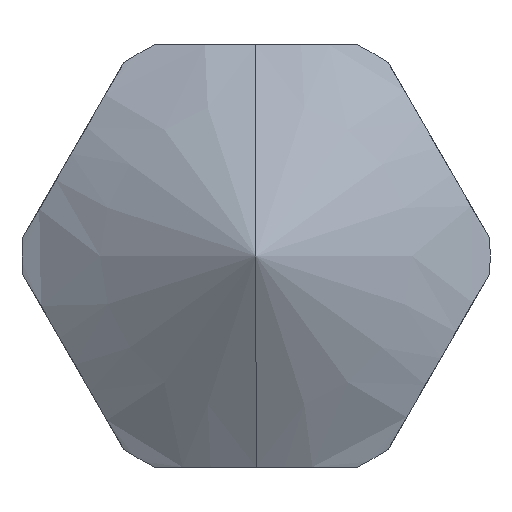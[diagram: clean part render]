
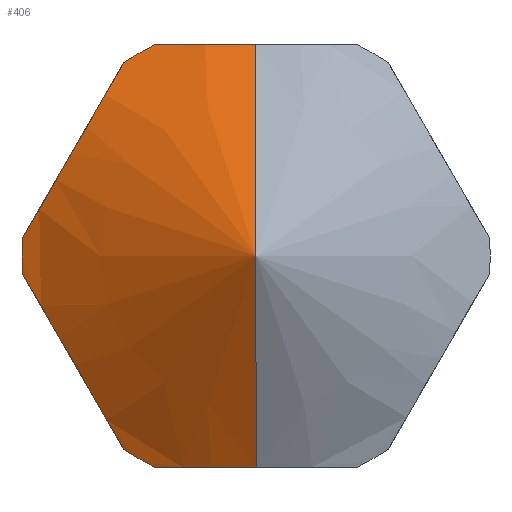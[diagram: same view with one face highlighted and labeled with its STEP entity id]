
A CAD part, left-side view. The second image highlights one B-rep face of the part: STEP entity #406.
In plain terms, the highlighted conical face has half-angle 60 degrees and reference radius 25.5 mm.
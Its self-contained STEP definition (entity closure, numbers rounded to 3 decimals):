
#9 = ORIENTED_EDGE ( 'NONE', *, *, #634, .F. ) ;
#15 = EDGE_CURVE ( 'NONE', #414, #118, #237, .T. ) ;
#20 = VECTOR ( 'NONE', #627, 1000. ) ;
#49 = CARTESIAN_POINT ( 'NONE',  ( -46.721, 0.925, -23. ) ) ;
#76 = CARTESIAN_POINT ( 'NONE',  ( -45.728, 24.52, 3.53 ) ) ;
#81 = DIRECTION ( 'NONE',  ( -1., 0., 0. ) ) ;
#104 = EDGE_CURVE ( 'NONE', #660, #711, #450, .T. ) ;
#107 = CARTESIAN_POINT ( 'NONE',  ( -46.69, 20.826, -9.928 ) ) ;
#117 = CARTESIAN_POINT ( 'NONE',  ( -46.586, 18.053, -14.731 ) ) ;
#118 = VERTEX_POINT ( 'NONE', #670 ) ;
#120 = CARTESIAN_POINT ( 'NONE',  ( -46.087, 7.409, 23. ) ) ;
#122 = CARTESIAN_POINT ( 'NONE',  ( -45.278, 0., 0. ) ) ;
#127 = CARTESIAN_POINT ( 'NONE',  ( -46.087, 7.409, -23. ) ) ;
#147 = B_SPLINE_CURVE_WITH_KNOTS ( 'NONE', 3,
 ( #368, #49, #836, #827, #364, #127, #762, #367 ),
 .UNSPECIFIED., .F., .F.,
 ( 4, 2, 2, 4 ),
 ( 0.036, 0.039, 0.041, 0.047 ),
 .UNSPECIFIED. ) ;
#151 = CARTESIAN_POINT ( 'NONE',  ( -45.278, 25.424, 1.964 ) ) ;
#180 = DIRECTION ( 'NONE',  ( 0., 0., 1. ) ) ;
#186 = CONICAL_SURFACE ( 'NONE', #813, 25.5, 1.047 ) ;
#213 = CARTESIAN_POINT ( 'NONE',  ( -45.278, 14.413, -21.036 ) ) ;
#223 = LINE ( 'NONE', #591, #580 ) ;
#237 = LINE ( 'NONE', #818, #20 ) ;
#244 = CARTESIAN_POINT ( 'NONE',  ( -45.278, 25.424, -1.964 ) ) ;
#245 = CARTESIAN_POINT ( 'NONE',  ( -46.56, 3.709, 23. ) ) ;
#249 = CARTESIAN_POINT ( 'NONE',  ( -46.721, 0.925, 23. ) ) ;
#254 = AXIS2_PLACEMENT_3D ( 'NONE', #482, #81, #341 ) ;
#256 = VERTEX_POINT ( 'NONE', #722 ) ;
#259 = CARTESIAN_POINT ( 'NONE',  ( -45.278, 11.011, 23. ) ) ;
#270 = EDGE_CURVE ( 'NONE', #322, #711, #833, .T. ) ;
#274 = VERTEX_POINT ( 'NONE', #213 ) ;
#277 = CARTESIAN_POINT ( 'NONE',  ( -46.722, 19.476, 12.267 ) ) ;
#281 = AXIS2_PLACEMENT_3D ( 'NONE', #122, #500, #180 ) ;
#309 = EDGE_CURVE ( 'NONE', #274, #256, #474, .T. ) ;
#314 = CARTESIAN_POINT ( 'NONE',  ( -45.278, 11.011, 23. ) ) ;
#322 = VERTEX_POINT ( 'NONE', #618 ) ;
#324 = ORIENTED_EDGE ( 'NONE', *, *, #553, .F. ) ;
#341 = DIRECTION ( 'NONE',  ( 0., 0., 1. ) ) ;
#360 = CARTESIAN_POINT ( 'NONE',  ( -46.091, 16.225, -17.897 ) ) ;
#364 = CARTESIAN_POINT ( 'NONE',  ( -46.463, 4.642, -23. ) ) ;
#365 = ORIENTED_EDGE ( 'NONE', *, *, #412, .F. ) ;
#367 = CARTESIAN_POINT ( 'NONE',  ( -45.278, 11.011, -23. ) ) ;
#368 = CARTESIAN_POINT ( 'NONE',  ( -46.721, 0., -23. ) ) ;
#370 = B_SPLINE_CURVE_WITH_KNOTS ( 'NONE', 3,
 ( #825, #753, #360, #117, #565, #567, #107, #812, #748, #745, #620, #244 ),
 .UNSPECIFIED., .F., .F.,
 ( 4, 2, 2, 2, 2, 4 ),
 ( 0., 0.006, 0.011, 0.014, 0.017, 0.022 ),
 .UNSPECIFIED. ) ;
#375 = CARTESIAN_POINT ( 'NONE',  ( -45.278, 0., 0. ) ) ;
#385 = CARTESIAN_POINT ( 'NONE',  ( -45.278, 14.413, 21.036 ) ) ;
#395 = CARTESIAN_POINT ( 'NONE',  ( -45.278, 14.413, 21.036 ) ) ;
#404 = CARTESIAN_POINT ( 'NONE',  ( -46.69, 19.011, 13.072 ) ) ;
#406 = ADVANCED_FACE ( 'NONE', ( #737 ), #186, .T. ) ;
#412 = EDGE_CURVE ( 'NONE', #274, #696, #370, .T. ) ;
#414 = VERTEX_POINT ( 'NONE', #687 ) ;
#440 = ORIENTED_EDGE ( 'NONE', *, *, #270, .F. ) ;
#441 = CARTESIAN_POINT ( 'NONE',  ( -46.689, 1.852, 23. ) ) ;
#450 = CIRCLE ( 'NONE', #651, 25.5 ) ;
#474 = CIRCLE ( 'NONE', #254, 25.5 ) ;
#476 = ORIENTED_EDGE ( 'NONE', *, *, #309, .T. ) ;
#478 = CARTESIAN_POINT ( 'NONE',  ( -46.094, 16.232, 17.886 ) ) ;
#482 = CARTESIAN_POINT ( 'NONE',  ( -45.278, 0., 0. ) ) ;
#500 = DIRECTION ( 'NONE',  ( -1., 0., 0. ) ) ;
#553 = EDGE_CURVE ( 'NONE', #705, #256, #147, .T. ) ;
#557 = B_SPLINE_CURVE_WITH_KNOTS ( 'NONE', 3,
 ( #314, #633, #120, #632, #245, #441, #249, #702 ),
 .UNSPECIFIED., .F., .F.,
 ( 4, 2, 2, 4 ),
 ( 0.073, 0.079, 0.082, 0.084 ),
 .UNSPECIFIED. ) ;
#558 = DIRECTION ( 'NONE',  ( 0., 0., -1. ) ) ;
#565 = CARTESIAN_POINT ( 'NONE',  ( -46.719, 18.972, -13.139 ) ) ;
#567 = CARTESIAN_POINT ( 'NONE',  ( -46.722, 20.361, -10.733 ) ) ;
#578 = DIRECTION ( 'NONE',  ( -1., 0., 0. ) ) ;
#580 = VECTOR ( 'NONE', #784, 1000. ) ;
#584 = EDGE_CURVE ( 'NONE', #322, #696, #652, .T. ) ;
#585 = CARTESIAN_POINT ( 'NONE',  ( -46.721, 0., -23. ) ) ;
#591 = CARTESIAN_POINT ( 'NONE',  ( -45.278, 0., -25.5 ) ) ;
#599 = CARTESIAN_POINT ( 'NONE',  ( -46.586, 21.784, 8.269 ) ) ;
#603 = CARTESIAN_POINT ( 'NONE',  ( -46.563, 18.079, 14.687 ) ) ;
#618 = CARTESIAN_POINT ( 'NONE',  ( -45.278, 25.424, 1.964 ) ) ;
#620 = CARTESIAN_POINT ( 'NONE',  ( -45.729, 24.518, -3.533 ) ) ;
#627 = DIRECTION ( 'NONE',  ( 0.5, 0., 0.866 ) ) ;
#632 = CARTESIAN_POINT ( 'NONE',  ( -46.463, 4.642, 23. ) ) ;
#633 = CARTESIAN_POINT ( 'NONE',  ( -45.724, 9.222, 23. ) ) ;
#634 = EDGE_CURVE ( 'NONE', #660, #118, #557, .T. ) ;
#643 = ORIENTED_EDGE ( 'NONE', *, *, #104, .T. ) ;
#651 = AXIS2_PLACEMENT_3D ( 'NONE', #375, #578, #837 ) ;
#652 = CIRCLE ( 'NONE', #281, 25.5 ) ;
#653 = CARTESIAN_POINT ( 'NONE',  ( -45.278, 25.424, -1.964 ) ) ;
#655 = CARTESIAN_POINT ( 'NONE',  ( -46.719, 20.865, 9.861 ) ) ;
#657 = CARTESIAN_POINT ( 'NONE',  ( -46.091, 23.612, 5.103 ) ) ;
#660 = VERTEX_POINT ( 'NONE', #259 ) ;
#670 = CARTESIAN_POINT ( 'NONE',  ( -46.721, 0., 23. ) ) ;
#677 = CARTESIAN_POINT ( 'NONE',  ( -45.278, 0., 0. ) ) ;
#684 = DIRECTION ( 'NONE',  ( 1., 0., 0. ) ) ;
#687 = CARTESIAN_POINT ( 'NONE',  ( -60., 0., 0. ) ) ;
#689 = EDGE_LOOP ( 'NONE', ( #841, #823, #9, #643, #440, #808, #365, #476, #324 ) ) ;
#696 = VERTEX_POINT ( 'NONE', #653 ) ;
#702 = CARTESIAN_POINT ( 'NONE',  ( -46.721, 0., 23. ) ) ;
#705 = VERTEX_POINT ( 'NONE', #585 ) ;
#711 = VERTEX_POINT ( 'NONE', #385 ) ;
#717 = CARTESIAN_POINT ( 'NONE',  ( -45.729, 15.319, 19.467 ) ) ;
#722 = CARTESIAN_POINT ( 'NONE',  ( -45.278, 11.011, -23. ) ) ;
#737 = FACE_OUTER_BOUND ( 'NONE', #689, .T. ) ;
#745 = CARTESIAN_POINT ( 'NONE',  ( -46.094, 23.605, -5.114 ) ) ;
#748 = CARTESIAN_POINT ( 'NONE',  ( -46.467, 22.222, -7.511 ) ) ;
#753 = CARTESIAN_POINT ( 'NONE',  ( -45.728, 15.317, -19.47 ) ) ;
#762 = CARTESIAN_POINT ( 'NONE',  ( -45.724, 9.222, -23. ) ) ;
#784 = DIRECTION ( 'NONE',  ( 0.5, 0., -0.866 ) ) ;
#793 = CARTESIAN_POINT ( 'NONE',  ( -46.467, 17.615, 15.489 ) ) ;
#808 = ORIENTED_EDGE ( 'NONE', *, *, #584, .T. ) ;
#812 = CARTESIAN_POINT ( 'NONE',  ( -46.563, 21.758, -8.313 ) ) ;
#813 = AXIS2_PLACEMENT_3D ( 'NONE', #677, #684, #558 ) ;
#818 = CARTESIAN_POINT ( 'NONE',  ( -45.278, 0., 25.5 ) ) ;
#823 = ORIENTED_EDGE ( 'NONE', *, *, #15, .T. ) ;
#825 = CARTESIAN_POINT ( 'NONE',  ( -45.278, 14.413, -21.036 ) ) ;
#827 = CARTESIAN_POINT ( 'NONE',  ( -46.56, 3.709, -23. ) ) ;
#830 = EDGE_CURVE ( 'NONE', #414, #705, #223, .T. ) ;
#833 = B_SPLINE_CURVE_WITH_KNOTS ( 'NONE', 3,
 ( #151, #76, #657, #599, #655, #277, #404, #603, #793, #478, #717, #395 ),
 .UNSPECIFIED., .F., .F.,
 ( 4, 2, 2, 2, 2, 4 ),
 ( 0., 0.006, 0.011, 0.014, 0.017, 0.022 ),
 .UNSPECIFIED. ) ;
#836 = CARTESIAN_POINT ( 'NONE',  ( -46.689, 1.852, -23. ) ) ;
#837 = DIRECTION ( 'NONE',  ( 0., 0., 1. ) ) ;
#841 = ORIENTED_EDGE ( 'NONE', *, *, #830, .F. ) ;
